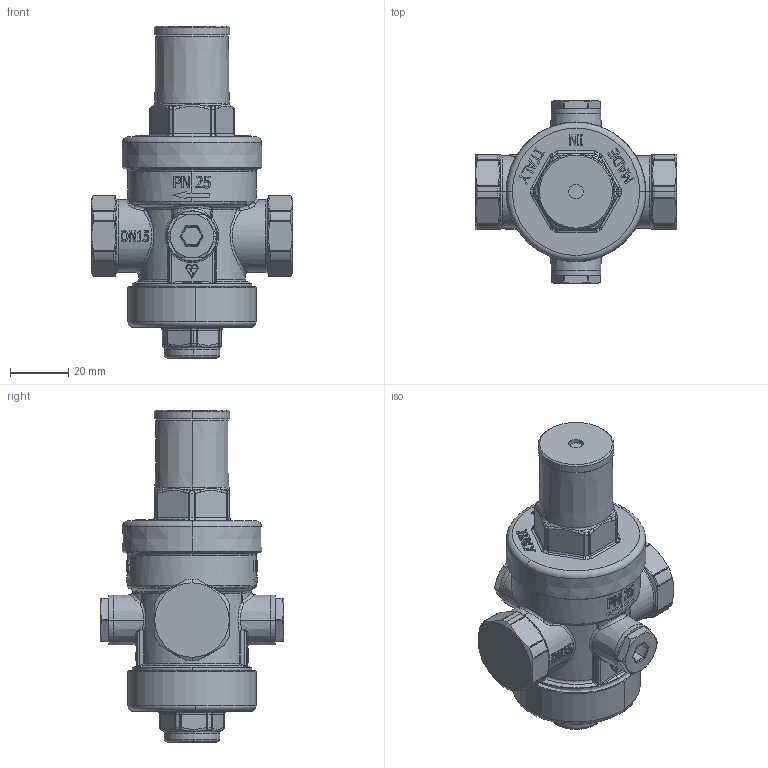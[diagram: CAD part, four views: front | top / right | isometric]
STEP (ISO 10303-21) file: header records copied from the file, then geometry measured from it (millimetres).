
FILE_DESCRIPTION (( 'STEP AP214' ), '1' );
FILE_NAME ('BPR401_standardowy_reduktor_cisnienia_9040110_0_3D_AFRISO.STEP', '2025-06-03T06:51:32', ( '' ), ( '' ), 'SwSTEP 2.0', 'SolidWorks 2024', '' );
FILE_SCHEMA (( 'AUTOMOTIVE_DESIGN' ));
Length unit declared in the file: millimetre
Products named in the file (6): 3101.515.00; 3301.515.00; 3001.516.02; 7001.235.15; BPR401_standardowy_reduktor_cisnienia_9040110_0_3D_AFRISO; 4401.008.00
Assembly tree (6 placements, depth 2):
  BPR401_standardowy_reduktor_cisnienia_9040110_0_3D_AFRISO
    3001.516.02
    3101.515.00
    3301.515.00
    4401.008.00  x2
    7001.235.15
Bounding box: 69 x 63 x 113.8 mm (x, y, z)
Volume: 166050.2 mm3; surface area: 32097.6 mm2
Topology: 6 solids, 6 shells, 1196 faces, 3008 edges, 1871 vertices
Faces by surface type: plane 455, cylinder 277, bspline 262, torus 103, cone 71, sphere 28
Entity records: 64574 total; most frequent: CARTESIAN_POINT 39261, ORIENTED_EDGE 5670, DIRECTION 4501, EDGE_CURVE 2835, VERTEX_POINT 1771, AXIS2_PLACEMENT_3D 1588, LINE 1325, VECTOR 1325
